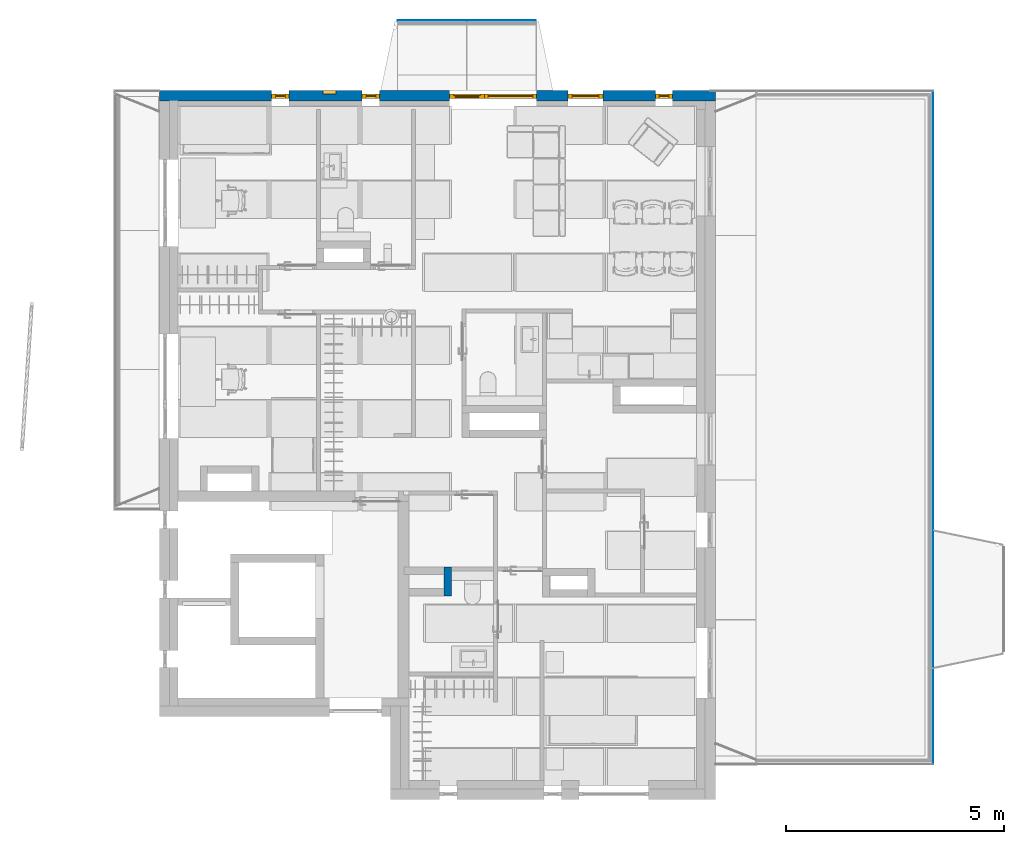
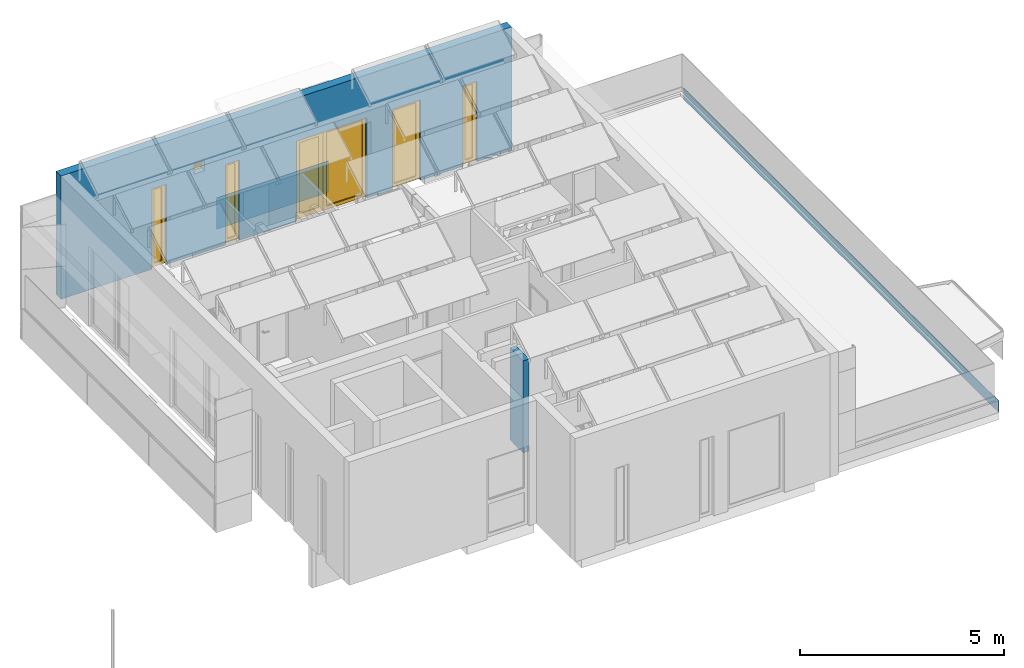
# One storey, part 6 of 57: 7 windows, 4 walls, 7 openings.
"""IFC2X3 building model written with IfcOpenShell, lengths in millimetres."""

from ifc_helpers import new_model, entity, si_unit, converted_unit, direction, frame, frame_2d, origin, place, context, subcontext, project, spatial, polyline, rectangle, outline, extrude, clip, bounded_halfspace, faceted_brep, source, transform, mapped, material, material_list, layer, layer_set, layer_usage, type_object, type_shapes, element, fill, save


model = new_model("IFC2X3")

# Units and contexts
model_context = context("Model", 3, precision=0.01, world=origin(), true_north=direction((6.123233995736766e-17, 1.0)))
plan_context = context("Plan", 3, precision=0.01, world=origin(), true_north=direction((6.123233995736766e-17, 1.0)))
body_context = subcontext(model_context, "Body", "Model", "MODEL_VIEW")
ifc_project = project(units=[si_unit("LENGTHUNIT", "METRE", prefix="MILLI"), converted_unit("PLANEANGLEUNIT", "DEGREE", entity("IfcPlaneAngleMeasure", 0.017453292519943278), si_unit("PLANEANGLEUNIT", "RADIAN"), dimensions=[0, 0, 0, 0, 0, 0, 0]), si_unit("AREAUNIT", "SQUARE_METRE")], contexts=[model_context, plan_context])

# Site, building, storey
site_placement = place(None, origin())
site = spatial("IfcSite", under=ifc_project, at=site_placement, Name="Default", CompositionType="ELEMENT")
building_placement = place(site_placement, origin())
building = spatial("IfcBuilding", under=site, at=building_placement, CompositionType="ELEMENT")
storey_placement = place(building_placement, frame((0.0, 0.0, 12811.000000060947)))
storey = spatial("IfcBuildingStorey", under=building, at=storey_placement, Name="5K", CompositionType="ELEMENT", Elevation=12811.000000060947)

# Wall, openings, windows
ifc_material_1 = material(Name="_K. Väisviimistlus. Krohv. Valge")
ifc_layer_1 = layer(ifc_material_1, 10.0)
ifc_material_2 = material(Name="_K. Soojustus. EPS Silver")
ifc_layer_2 = layer(ifc_material_2, 230.0)
ifc_layer_set_1 = layer_set([ifc_layer_1, ifc_layer_2], Name="Basic Wall:VS-01")
ifc_layer_usage_1 = layer_usage(ifc_layer_set_1, "AXIS2", "NEGATIVE", 120.0)
wall_type_1 = type_object("IfcWallType", Name="Basic Wall:VS-01", PredefinedType="STANDARD", material=ifc_layer_set_1)
wall_1_placement = place(storey_placement, frame((-430.0, 15710.0, 0.0)))
wall_1 = element("IfcWallStandardCase", 1, at=wall_1_placement, inside=storey, type_object=wall_type_1, material=ifc_layer_usage_1, Name="Basic Wall:VS-01", ObjectType="Basic Wall:VS-01", context=body_context, shape_type="SweptSolid", body=[
    extrude(rectangle(XDim=12760.000000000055, YDim=240.00000000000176, at=frame_2d((6380.000000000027, -1.4921397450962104e-13), x_axis=(-1.0, 0.0))), origin(), (0.0, 0.0, 1.0), 3688.9999999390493),
])
opening_1_placement = place(wall_1_placement, frame((430.0, -15710.0, 0.0)))
opening_1 = element("IfcOpeningElement", 2, at=opening_1_placement, cuts=wall_1, Name="Basic Wall:VS-01", ObjectType="Opening", context=body_context, shape_type="Brep", body=[
    faceted_brep([(11350.0, 15850.0, 2400.0), (11350.0, 15156.0, 2400.0), (11350.0, 15156.0, 0.0), (11350.0, 15740.0, 0.0), (11350.0, 15750.0, 0.0), (11350.0, 15850.0, 0.0), (10950.0, 15850.0, 2400.0), (10950.0, 15156.0, 2400.0), (10950.0, 15850.0, 0.0), (10950.0, 15750.0, 0.0), (10950.0, 15740.0, 0.0), (10950.0, 15156.0, 0.0)], [[[0, 1, 2, 3, 4, 5]], [[6, 7, 1, 0]], [[8, 9, 10, 11, 7, 6]], [[5, 4, 3, 2, 11, 10, 9, 8]], [[6, 0, 5, 8]], [[7, 11, 2, 1]]]),
])
opening_2_placement = place(wall_1_placement, frame((430.0, -15710.0, 0.0)))
opening_2 = element("IfcOpeningElement", 3, at=opening_2_placement, cuts=wall_1, Name="Basic Wall:VS-01", ObjectType="Opening", context=body_context, shape_type="Brep", body=[
    faceted_brep([(9750.0, 15850.0, 2400.0), (9750.0, 15156.0, 2400.0), (9750.0, 15156.0, 0.0), (9750.0, 15740.0, 0.0), (9750.0, 15750.0, 0.0), (9750.0, 15850.0, 0.0), (8950.0, 15850.0, 2400.0), (8950.0, 15156.0, 2400.0), (8950.0, 15850.0, 0.0), (8950.0, 15750.0, 0.0), (8950.0, 15740.0, 0.0), (8950.0, 15156.0, 0.0)], [[[0, 1, 2, 3, 4, 5]], [[6, 7, 1, 0]], [[8, 9, 10, 11, 7, 6]], [[5, 4, 3, 2, 11, 10, 9, 8]], [[6, 0, 5, 8]], [[7, 11, 2, 1]]]),
])
opening_3_placement = place(wall_1_placement, frame((430.0, -15710.0, 0.0)))
opening_3 = element("IfcOpeningElement", 4, at=opening_3_placement, cuts=wall_1, Name="Basic Wall:VS-01", ObjectType="Opening", context=body_context, shape_type="Brep", body=[
    faceted_brep([(8230.0, 15850.0, 2400.0), (8230.0, 15156.0, 2400.0), (8230.0, 15156.0, 0.0), (8230.0, 15740.0, 0.0), (8230.0, 15750.0, 0.0), (8230.0, 15850.0, 0.0), (7030.0, 15850.0, 2400.0), (7030.0, 15156.0, 2400.0), (7030.0, 15850.0, 0.0), (7030.0, 15750.0, 0.0), (7030.0, 15740.0, 0.0), (7030.0, 15156.0, 0.0)], [[[0, 1, 2, 3, 4, 5]], [[6, 7, 1, 0]], [[8, 9, 10, 11, 7, 6]], [[5, 4, 3, 2, 11, 10, 9, 8]], [[6, 0, 5, 8]], [[7, 11, 2, 1]]]),
])
opening_4_placement = place(wall_1_placement, frame((430.0, -15710.0, 0.0)))
opening_4 = element("IfcOpeningElement", 5, at=opening_4_placement, cuts=wall_1, Name="Basic Wall:VS-01", ObjectType="Opening", context=body_context, shape_type="Brep", body=[
    faceted_brep([(4625.0, 15850.0, 2400.0), (4625.0, 15156.0, 2400.0), (4625.0, 15156.0, 0.0), (4625.0, 15740.0, 0.0), (4625.0, 15750.0, 0.0), (4625.0, 15850.0, 0.0), (4225.0, 15850.0, 2400.0), (4225.0, 15156.0, 2400.0), (4225.0, 15850.0, 0.0), (4225.0, 15750.0, 0.0), (4225.0, 15740.0, 0.0), (4225.0, 15156.0, 0.0)], [[[0, 1, 2, 3, 4, 5]], [[6, 7, 1, 0]], [[8, 9, 10, 11, 7, 6]], [[5, 4, 3, 2, 11, 10, 9, 8]], [[6, 0, 5, 8]], [[7, 11, 2, 1]]]),
])
opening_5_placement = place(wall_1_placement, frame((430.0, -15710.0, 0.0)))
opening_5 = element("IfcOpeningElement", 6, at=opening_5_placement, cuts=wall_1, Name="Basic Wall:VS-01", ObjectType="Opening", context=body_context, shape_type="Brep", body=[
    faceted_brep([(2550.0, 15850.0, 2400.0), (2550.0, 15156.0, 2400.0), (2550.0, 15156.0, 0.0), (2550.0, 15740.0, 0.0), (2550.0, 15750.0, 0.0), (2550.0, 15850.0, 0.0), (2150.0, 15850.0, 2400.0), (2150.0, 15156.0, 2400.0), (2150.0, 15850.0, 0.0), (2150.0, 15750.0, 0.0), (2150.0, 15740.0, 0.0), (2150.0, 15156.0, 0.0)], [[[0, 1, 2, 3, 4, 5]], [[6, 7, 1, 0]], [[8, 9, 10, 11, 7, 6]], [[5, 4, 3, 2, 11, 10, 9, 8]], [[6, 0, 5, 8]], [[7, 11, 2, 1]]]),
])
opening_6_placement = place(wall_1_placement, frame((430.0, -15710.0, 0.0)))
opening_6 = element("IfcOpeningElement", 7, at=opening_6_placement, cuts=wall_1, Name="Basic Wall:VS-01", ObjectType="Opening", context=body_context, shape_type="Brep", body=[
    faceted_brep([(7030.0, 15850.0, 2400.0), (7030.0, 15156.0, 2400.0), (7030.0, 15156.0, 0.0), (7030.0, 15740.0, 0.0), (7030.0, 15750.0, 0.0), (7030.0, 15850.0, 0.0), (6230.0, 15850.0, 2400.0), (6230.0, 15156.0, 2400.0), (6230.0, 15850.0, 0.0), (6230.0, 15750.0, 0.0), (6230.0, 15740.0, 0.0), (6230.0, 15156.0, 0.0)], [[[0, 1, 2, 3, 4, 5]], [[6, 7, 1, 0]], [[8, 9, 10, 11, 7, 6]], [[5, 4, 3, 2, 11, 10, 9, 8]], [[6, 0, 5, 8]], [[7, 11, 2, 1]]]),
])
opening_7_placement = place(wall_1_placement, frame((3760.0, -120.0, 2424.9999999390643)))
opening_7 = element("IfcOpeningElement", 8, at=opening_7_placement, cuts=wall_1, Name="HR_Louver_Rectangle_v1:300x300:1", ObjectType="Opening", context=body_context, shape_type="SweptSolid", body=[
    extrude(rectangle(XDim=300.0, YDim=299.99999999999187, at=frame_2d((149.99999999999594, 150.0), x_axis=(0.0, 1.0))), frame((0.0, 0.0, 0.0), z_axis=(0.0, 1.0, 0.0), x_axis=(0.0, 0.0, 1.0)), (0.0, 0.0, 1.0), 240.0),
])
ifc_material_3 = material(Name="_K. Avatäited. Raam. PVC. Valge")
ifc_material_4 = material(Name="_K. Klaas. Pakett")
ifc_material_5 = material(Name="_K. Avatäited. Raam. PVC. RAL9005")
ifc_material_list_1 = material_list([ifc_material_3, ifc_material_4, ifc_material_5])
window_style_1 = type_object("IfcWindowStyle", Name="HR_Window_Generic_Rectangle_1x1:A-01.400x2400.ma", ConstructionType="NOTDEFINED", OperationType="NOTDEFINED", ParameterTakesPrecedence=False, Sizeable=False, material=ifc_material_list_1)
shared_shape_1 = source(origin(), body_context, "Body", "Brep", [
    faceted_brep([(88.0, -194.0, 2312.0), (312.0, -194.0, 2312.0), (312.0, -194.0, 108.0), (88.0, -194.0, 108.0), (342.0, -194.0, 2342.0), (58.0, -194.0, 2342.0), (58.0, -194.0, 78.0), (342.0, -194.0, 78.0), (88.0, -159.0, 2312.0), (88.0, -159.0, 108.0), (312.0, -159.0, 108.0), (342.0, -159.0, 2342.0), (342.0, -159.0, 78.0), (58.0, -159.0, 78.0), (58.0, -159.0, 2342.0), (312.0, -159.0, 2312.0)], [[[0, 1, 2, 3], [4, 5, 6, 7]], [[8, 0, 3, 9]], [[9, 3, 2, 10]], [[11, 12, 13, 14], [15, 8, 9, 10]], [[1, 15, 10, 2]], [[6, 5, 14, 13]], [[7, 6, 13, 12]], [[4, 7, 12, 11]], [[15, 1, 0, 8]], [[5, 4, 11, 14]]], outer=[[False, True], [True], [True], [True, False], [True], [True], [True], [True], [True], [True]]),
    faceted_brep([(342.0, -159.0, 2342.0), (58.0, -159.0, 2342.0), (58.0, -159.0, 78.0), (342.0, -159.0, 78.0), (58.0, -134.0, 2342.0), (58.0, -134.0, 78.0), (342.0, -134.0, 78.0), (342.0, -134.0, 2342.0)], [[[0, 1, 2, 3]], [[2, 1, 4, 5]], [[3, 2, 5, 6]], [[0, 3, 6, 7]], [[7, 6, 5, 4]], [[1, 0, 7, 4]]]),
    faceted_brep([(342.0, -134.0, 78.0), (58.0, -134.0, 78.0), (58.0, -194.0, 78.0), (342.0, -194.0, 78.0), (58.0, -134.0, 2342.0), (58.0, -194.0, 2342.0), (342.0, -134.0, 2342.0), (342.0, -194.0, 2342.0), (88.0, -100.0, 108.0), (88.0, -100.0, 2312.0), (88.0, -134.0, 2312.0), (88.0, -134.0, 108.0), (312.0, -100.0, 108.0), (312.0, -134.0, 108.0), (312.0, -100.0, 2312.0), (312.0, -134.0, 2312.0), (0.0, -100.0, 2400.0), (400.0, -100.0, 2400.0), (400.0, -100.0, 30.0), (0.0, -100.0, 30.0), (400.0, -194.0, 2400.0), (0.0, -194.0, 2400.0), (0.0, -194.0, 30.0), (400.0, -194.0, 30.0), (0.0, -110.0, 30.0), (0.0, -110.0, 0.0), (0.0, -184.0, 0.0), (0.0, -184.0, 30.0), (400.0, -184.0, 30.0), (400.0, -184.0, 0.0), (400.0, -110.0, 0.0), (400.0, -110.0, 30.0)], [[[0, 1, 2, 3]], [[1, 4, 5, 2]], [[6, 0, 3, 7]], [[8, 9, 10, 11]], [[12, 8, 11, 13]], [[14, 12, 13, 15]], [[16, 17, 18, 19], [9, 8, 12, 14]], [[20, 21, 22, 23], [7, 3, 2, 5]], [[21, 16, 19, 24, 25, 26, 27, 22]], [[27, 28, 23, 22]], [[17, 20, 23, 28, 29, 30, 31, 18]], [[31, 24, 19, 18]], [[24, 31, 30, 25]], [[25, 30, 29, 26]], [[28, 27, 26, 29]], [[4, 6, 7, 5]], [[9, 14, 15, 10]], [[21, 20, 17, 16]], [[10, 15, 13, 11], [0, 6, 4, 1]]], outer=[[True], [True], [True], [True], [True], [True], [True, False], [True, False], [True], [True], [True], [True], [True], [True], [True], [True], [True], [True], [False, True]]),
])
type_shapes(window_style_1, [shared_shape_1])
window_1_placement = place(opening_1_placement, frame((10950.0, 15850.0, 0.0)))
window_1 = element("IfcWindow", 9, at=window_1_placement, inside=storey, type_object=window_style_1, material=ifc_material_list_1, Name="HR_Window_Generic_Rectangle_1x1:A-01.400x2400.ma", ObjectType="HR_Window_Generic_Rectangle_1x1:A-01.400x2400.ma", OverallHeight=2465.0000000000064, OverallWidth=400.0000000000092, context=body_context, shape_type="MappedRepresentation", body=[
    mapped(shared_shape_1, transform((0.0, 0.0, 0.0), scale=1.0)),
])
fill(opening_1, window_1)
window_2_placement = place(opening_4_placement, frame((4225.0, 15850.0, 0.0)))
window_2 = element("IfcWindow", 10, at=window_2_placement, inside=storey, type_object=window_style_1, material=ifc_material_list_1, Name="HR_Window_Generic_Rectangle_1x1:A-01.400x2400.ma", ObjectType="HR_Window_Generic_Rectangle_1x1:A-01.400x2400.ma", OverallHeight=2465.0000000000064, OverallWidth=400.0000000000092, context=body_context, shape_type="MappedRepresentation", body=[
    mapped(shared_shape_1, transform((0.0, 0.0, 0.0), scale=1.0)),
])
fill(opening_4, window_2)
window_3_placement = place(opening_5_placement, frame((2150.0, 15850.0, 0.0)))
window_3 = element("IfcWindow", 11, at=window_3_placement, inside=storey, type_object=window_style_1, material=ifc_material_list_1, Name="HR_Window_Generic_Rectangle_1x1:A-01.400x2400.ma", ObjectType="HR_Window_Generic_Rectangle_1x1:A-01.400x2400.ma", OverallHeight=2465.0000000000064, OverallWidth=400.0000000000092, context=body_context, shape_type="MappedRepresentation", body=[
    mapped(shared_shape_1, transform((0.0, 0.0, 0.0), scale=1.0)),
])
fill(opening_5, window_3)
window_style_2 = type_object("IfcWindowStyle", Name="HR_Window_Generic_Rectangle_1x1:A-02. 800x2400. ma", ConstructionType="NOTDEFINED", OperationType="NOTDEFINED", ParameterTakesPrecedence=False, Sizeable=False, material=ifc_material_list_1)
shared_shape_2 = source(origin(), body_context, "Body", "Brep", [
    faceted_brep([(88.0, -194.0, 2312.0), (712.0, -194.0, 2312.0), (712.0, -194.0, 108.0), (88.0, -194.0, 108.0), (742.0, -194.0, 2342.0), (58.0, -194.0, 2342.0), (58.0, -194.0, 78.0), (742.0, -194.0, 78.0), (88.0, -159.0, 2312.0), (88.0, -159.0, 108.0), (712.0, -159.0, 108.0), (742.0, -159.0, 2342.0), (742.0, -159.0, 78.0), (58.0, -159.0, 78.0), (58.0, -159.0, 2342.0), (712.0, -159.0, 2312.0)], [[[0, 1, 2, 3], [4, 5, 6, 7]], [[8, 0, 3, 9]], [[9, 3, 2, 10]], [[11, 12, 13, 14], [15, 8, 9, 10]], [[1, 15, 10, 2]], [[6, 5, 14, 13]], [[7, 6, 13, 12]], [[4, 7, 12, 11]], [[15, 1, 0, 8]], [[5, 4, 11, 14]]], outer=[[False, True], [True], [True], [True, False], [True], [True], [True], [True], [True], [True]]),
    faceted_brep([(742.0, -159.0, 2342.0), (58.0, -159.0, 2342.0), (58.0, -159.0, 78.0), (742.0, -159.0, 78.0), (58.0, -134.0, 2342.0), (58.0, -134.0, 78.0), (742.0, -134.0, 78.0), (742.0, -134.0, 2342.0)], [[[0, 1, 2, 3]], [[2, 1, 4, 5]], [[3, 2, 5, 6]], [[0, 3, 6, 7]], [[7, 6, 5, 4]], [[1, 0, 7, 4]]]),
    faceted_brep([(742.0, -134.0, 78.0), (58.0, -134.0, 78.0), (58.0, -194.0, 78.0), (742.0, -194.0, 78.0), (58.0, -134.0, 2342.0), (58.0, -194.0, 2342.0), (742.0, -134.0, 2342.0), (742.0, -194.0, 2342.0), (88.0, -100.0, 108.0), (88.0, -100.0, 2312.0), (88.0, -134.0, 2312.0), (88.0, -134.0, 108.0), (712.0, -100.0, 108.0), (712.0, -134.0, 108.0), (712.0, -100.0, 2312.0), (712.0, -134.0, 2312.0), (0.0, -100.0, 2400.0), (800.0, -100.0, 2400.0), (800.0, -100.0, 30.0), (0.0, -100.0, 30.0), (800.0, -194.0, 2400.0), (0.0, -194.0, 2400.0), (0.0, -194.0, 30.0), (800.0, -194.0, 30.0), (0.0, -110.0, 30.0), (0.0, -110.0, 0.0), (0.0, -184.0, 0.0), (0.0, -184.0, 30.0), (800.0, -184.0, 30.0), (800.0, -184.0, 0.0), (800.0, -110.0, 0.0), (800.0, -110.0, 30.0)], [[[0, 1, 2, 3]], [[1, 4, 5, 2]], [[6, 0, 3, 7]], [[8, 9, 10, 11]], [[12, 8, 11, 13]], [[14, 12, 13, 15]], [[16, 17, 18, 19], [9, 8, 12, 14]], [[20, 21, 22, 23], [7, 3, 2, 5]], [[21, 16, 19, 24, 25, 26, 27, 22]], [[27, 28, 23, 22]], [[17, 20, 23, 28, 29, 30, 31, 18]], [[31, 24, 19, 18]], [[24, 31, 30, 25]], [[25, 30, 29, 26]], [[28, 27, 26, 29]], [[4, 6, 7, 5]], [[9, 14, 15, 10]], [[21, 20, 17, 16]], [[10, 15, 13, 11], [0, 6, 4, 1]]], outer=[[True], [True], [True], [True], [True], [True], [True, False], [True, False], [True], [True], [True], [True], [True], [True], [True], [True], [True], [True], [False, True]]),
])
type_shapes(window_style_2, [shared_shape_2])
window_4_placement = place(opening_2_placement, frame((8950.0, 15850.0, 0.0)))
window_4 = element("IfcWindow", 12, at=window_4_placement, inside=storey, type_object=window_style_2, material=ifc_material_list_1, Name="HR_Window_Generic_Rectangle_1x1:A-02. 800x2400. ma", ObjectType="HR_Window_Generic_Rectangle_1x1:A-02. 800x2400. ma", OverallHeight=2465.0000000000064, OverallWidth=800.000000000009, context=body_context, shape_type="MappedRepresentation", body=[
    mapped(shared_shape_2, transform((0.0, 0.0, 0.0), scale=1.0)),
])
fill(opening_2, window_4)
ifc_material_list_2 = material_list([ifc_material_4, ifc_material_5])
window_style_3 = type_object("IfcWindowStyle", Name="HR_Window_Generic_Rectangle_1x1:A-10.800x2400.P", ConstructionType="NOTDEFINED", OperationType="NOTDEFINED", ParameterTakesPrecedence=False, Sizeable=False, material=ifc_material_list_2)
shared_shape_3 = source(origin(), body_context, "Body", "Brep", [
    faceted_brep([(108.0, -154.0, 2292.0), (692.0, -154.0, 2292.0), (692.0, -154.0, 128.0), (108.0, -154.0, 128.0), (692.0, -179.0, 2292.0), (692.0, -179.0, 128.0), (108.0, -179.0, 128.0), (108.0, -179.0, 2292.0)], [[[0, 1, 2, 3]], [[2, 1, 4, 5]], [[3, 2, 5, 6]], [[0, 3, 6, 7]], [[7, 6, 5, 4]], [[1, 0, 7, 4]]]),
    faceted_brep([(692.0, -154.0, 2292.0), (692.0, -154.0, 128.0), (692.0, -179.0, 128.0), (692.0, -179.0, 2292.0), (742.0, -134.0, 2342.0), (58.0, -134.0, 2342.0), (58.0, -194.0, 2342.0), (742.0, -194.0, 2342.0), (128.0, -154.0, 2272.0), (128.0, -134.0, 2272.0), (672.0, -134.0, 2272.0), (672.0, -154.0, 2272.0), (128.0, -179.0, 2272.0), (128.0, -194.0, 2272.0), (128.0, -194.0, 148.0), (128.0, -179.0, 148.0), (742.0, -134.0, 78.0), (742.0, -194.0, 78.0), (58.0, -194.0, 78.0), (58.0, -134.0, 78.0), (672.0, -194.0, 2272.0), (672.0, -194.0, 148.0), (128.0, -134.0, 148.0), (672.0, -134.0, 148.0), (128.0, -154.0, 148.0), (672.0, -154.0, 148.0), (108.0, -154.0, 128.0), (108.0, -179.0, 128.0), (108.0, -154.0, 2292.0), (108.0, -179.0, 2292.0), (672.0, -179.0, 2272.0), (672.0, -179.0, 148.0)], [[[0, 1, 2, 3]], [[4, 5, 6, 7]], [[8, 9, 10, 11]], [[12, 13, 14, 15]], [[16, 17, 18, 19]], [[4, 7, 17, 16]], [[13, 20, 21, 14], [7, 6, 18, 17]], [[6, 5, 19, 18]], [[5, 4, 16, 19], [10, 9, 22, 23]], [[9, 8, 24, 22]], [[25, 23, 22, 24]], [[11, 10, 23, 25]], [[1, 26, 27, 2]], [[26, 28, 29, 27]], [[28, 26, 1, 0], [8, 11, 25, 24]], [[28, 0, 3, 29]], [[20, 30, 31, 21]], [[21, 31, 15, 14]], [[29, 3, 2, 27], [30, 12, 15, 31]], [[13, 12, 30, 20]]], outer=[[True], [True], [True], [True], [True], [True], [False, True], [True], [True, False], [True], [True], [True], [True], [True], [True, False], [True], [True], [True], [True, False], [True]]),
    faceted_brep([(742.0, -134.0, 78.0), (58.0, -134.0, 78.0), (58.0, -194.0, 78.0), (742.0, -194.0, 78.0), (58.0, -134.0, 2342.0), (58.0, -194.0, 2342.0), (742.0, -134.0, 2342.0), (742.0, -194.0, 2342.0), (88.0, -100.0, 108.0), (88.0, -100.0, 2312.0), (88.0, -134.0, 2312.0), (88.0, -134.0, 108.0), (712.0, -100.0, 108.0), (712.0, -134.0, 108.0), (712.0, -100.0, 2312.0), (712.0, -134.0, 2312.0), (0.0, -100.0, 2400.0), (800.0, -100.0, 2400.0), (800.0, -100.0, 30.0), (0.0, -100.0, 30.0), (800.0, -194.0, 2400.0), (0.0, -194.0, 2400.0), (0.0, -194.0, 30.0), (800.0, -194.0, 30.0), (0.0, -110.0, 30.0), (0.0, -110.0, 0.0), (0.0, -184.0, 0.0), (0.0, -184.0, 30.0), (800.0, -184.0, 30.0), (800.0, -184.0, 0.0), (800.0, -110.0, 0.0), (800.0, -110.0, 30.0)], [[[0, 1, 2, 3]], [[1, 4, 5, 2]], [[6, 0, 3, 7]], [[8, 9, 10, 11]], [[12, 8, 11, 13]], [[14, 12, 13, 15]], [[16, 17, 18, 19], [9, 8, 12, 14]], [[20, 21, 22, 23], [7, 3, 2, 5]], [[21, 16, 19, 24, 25, 26, 27, 22]], [[27, 28, 23, 22]], [[17, 20, 23, 28, 29, 30, 31, 18]], [[31, 24, 19, 18]], [[24, 31, 30, 25]], [[25, 30, 29, 26]], [[28, 27, 26, 29]], [[4, 6, 7, 5]], [[9, 14, 15, 10]], [[21, 20, 17, 16]], [[10, 15, 13, 11], [0, 6, 4, 1]]], outer=[[True], [True], [True], [True], [True], [True], [True, False], [True, False], [True], [True], [True], [True], [True], [True], [True], [True], [True], [True], [False, True]]),
])
type_shapes(window_style_3, [shared_shape_3])
window_5_placement = place(opening_6_placement, frame((6230.0, 15850.0, 0.0)))
window_5 = element("IfcWindow", 13, at=window_5_placement, inside=storey, type_object=window_style_3, material=ifc_material_list_2, Name="HR_Window_Generic_Rectangle_1x1:A-10.800x2400.P", ObjectType="HR_Window_Generic_Rectangle_1x1:A-10.800x2400.P", OverallHeight=2465.0000000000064, OverallWidth=800.000000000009, context=body_context, shape_type="MappedRepresentation", body=[
    mapped(shared_shape_3, transform((0.0, 0.0, 0.0), scale=1.0)),
])
fill(opening_6, window_5)
window_style_4 = type_object("IfcWindowStyle", Name="HR_Window_Generic_Rectangle_1x1:A-03.1200x2400.ma", ConstructionType="NOTDEFINED", OperationType="NOTDEFINED", ParameterTakesPrecedence=False, Sizeable=False, material=ifc_material_list_1)
shared_shape_4 = source(origin(), body_context, "Body", "Brep", [
    faceted_brep([(88.0, -194.0, 2312.0), (1112.0, -194.0, 2312.0), (1112.0, -194.0, 108.0), (88.0, -194.0, 108.0), (1142.0, -194.0, 2342.0), (58.0, -194.0, 2342.0), (58.0, -194.0, 78.0), (1142.0, -194.0, 78.0), (88.0, -159.0, 2312.0), (88.0, -159.0, 108.0), (1112.0, -159.0, 108.0), (1142.0, -159.0, 2342.0), (1142.0, -159.0, 78.0), (58.0, -159.0, 78.0), (58.0, -159.0, 2342.0), (1112.0, -159.0, 2312.0)], [[[0, 1, 2, 3], [4, 5, 6, 7]], [[8, 0, 3, 9]], [[9, 3, 2, 10]], [[11, 12, 13, 14], [15, 8, 9, 10]], [[1, 15, 10, 2]], [[6, 5, 14, 13]], [[7, 6, 13, 12]], [[4, 7, 12, 11]], [[15, 1, 0, 8]], [[5, 4, 11, 14]]], outer=[[False, True], [True], [True], [True, False], [True], [True], [True], [True], [True], [True]]),
    faceted_brep([(1142.0, -159.0, 2342.0), (58.0, -159.0, 2342.0), (58.0, -159.0, 78.0), (1142.0, -159.0, 78.0), (58.0, -134.0, 2342.0), (58.0, -134.0, 78.0), (1142.0, -134.0, 78.0), (1142.0, -134.0, 2342.0)], [[[0, 1, 2, 3]], [[2, 1, 4, 5]], [[3, 2, 5, 6]], [[0, 3, 6, 7]], [[7, 6, 5, 4]], [[1, 0, 7, 4]]]),
    faceted_brep([(1142.0, -134.0, 78.0), (58.0, -134.0, 78.0), (58.0, -194.0, 78.0), (1142.0, -194.0, 78.0), (58.0, -134.0, 2342.0), (58.0, -194.0, 2342.0), (1142.0, -134.0, 2342.0), (1142.0, -194.0, 2342.0), (88.0, -100.0, 108.0), (88.0, -100.0, 2312.0), (88.0, -134.0, 2312.0), (88.0, -134.0, 108.0), (1112.0, -100.0, 108.0), (1112.0, -134.0, 108.0), (1112.0, -100.0, 2312.0), (1112.0, -134.0, 2312.0), (0.0, -100.0, 2400.0), (1200.0, -100.0, 2400.0), (1200.0, -100.0, 30.0), (0.0, -100.0, 30.0), (1200.0, -194.0, 2400.0), (0.0, -194.0, 2400.0), (0.0, -194.0, 30.0), (1200.0, -194.0, 30.0), (0.0, -110.0, 30.0), (0.0, -110.0, 0.0), (0.0, -184.0, 0.0), (0.0, -184.0, 30.0), (1200.0, -184.0, 30.0), (1200.0, -184.0, 0.0), (1200.0, -110.0, 0.0), (1200.0, -110.0, 30.0)], [[[0, 1, 2, 3]], [[1, 4, 5, 2]], [[6, 0, 3, 7]], [[8, 9, 10, 11]], [[12, 8, 11, 13]], [[14, 12, 13, 15]], [[16, 17, 18, 19], [9, 8, 12, 14]], [[20, 21, 22, 23], [7, 3, 2, 5]], [[21, 16, 19, 24, 25, 26, 27, 22]], [[27, 28, 23, 22]], [[17, 20, 23, 28, 29, 30, 31, 18]], [[31, 24, 19, 18]], [[24, 31, 30, 25]], [[25, 30, 29, 26]], [[28, 27, 26, 29]], [[4, 6, 7, 5]], [[9, 14, 15, 10]], [[21, 20, 17, 16]], [[10, 15, 13, 11], [0, 6, 4, 1]]], outer=[[True], [True], [True], [True], [True], [True], [True, False], [True, False], [True], [True], [True], [True], [True], [True], [True], [True], [True], [True], [False, True]]),
])
type_shapes(window_style_4, [shared_shape_4])
window_6_placement = place(opening_3_placement, frame((7030.0, 15850.0, 0.0)))
window_6 = element("IfcWindow", 14, at=window_6_placement, inside=storey, type_object=window_style_4, material=ifc_material_list_1, Name="HR_Window_Generic_Rectangle_1x1:A-03.1200x2400.ma", ObjectType="HR_Window_Generic_Rectangle_1x1:A-03.1200x2400.ma", OverallHeight=2465.0000000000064, OverallWidth=1200.000000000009, context=body_context, shape_type="MappedRepresentation", body=[
    mapped(shared_shape_4, transform((0.0, 0.0, 0.0), scale=1.0)),
])
fill(opening_3, window_6)
ifc_material_6 = material(Name="_K. Metall. Plekk. Värvitud. Valge")
window_style_5 = type_object("IfcWindowStyle", Name="HR_Louver_Rectangle_v1:300x300", ConstructionType="NOTDEFINED", OperationType="NOTDEFINED", ParameterTakesPrecedence=False, Sizeable=False, material=ifc_material_6)
shared_shape_5 = source(origin(), body_context, "Body", "SweptSolid", [
    extrude(outline(polyline([(-35.34119409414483, 1.0), (-57.145910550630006, -19.60471645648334), (-55.77226278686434, -21.058364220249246), (-34.54571762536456, -1.0), (35.3411940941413, -1.0), (57.14591055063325, 19.604716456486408), (55.772262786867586, 21.058364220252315), (34.54571762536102, 1.0), (-35.34119409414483, 1.0)])), frame((2.0, 215.0, 119.0), z_axis=(-1.0, 0.0, 0.0), x_axis=(0.0, 0.6868238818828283, -0.7268238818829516)), (0.0, 0.0, -1.0), 296.0),
    extrude(outline(polyline([(-35.34119409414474, 1.0), (-57.1459105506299, -19.60471645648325), (-55.77226278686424, -21.058364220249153), (-34.54571762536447, -1.0), (35.34119409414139, -1.0), (57.145910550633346, 19.604716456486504), (55.772262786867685, 21.058364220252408), (34.54571762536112, 1.0), (-35.34119409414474, 1.0)])), frame((2.0, 215.0, 181.0), z_axis=(-1.0, 0.0, 0.0), x_axis=(0.0, 0.6868238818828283, -0.7268238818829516)), (0.0, 0.0, -1.0), 296.0),
    extrude(outline(polyline([(-35.34119409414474, 1.0), (-57.1459105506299, -19.60471645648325), (-55.77226278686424, -21.058364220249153), (-34.54571762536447, -1.0), (35.34119409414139, -1.0), (57.145910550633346, 19.604716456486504), (55.772262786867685, 21.058364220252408), (34.54571762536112, 1.0), (-35.34119409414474, 1.0)])), frame((2.0, 215.0, 57.0), z_axis=(-1.0, 0.0, 0.0), x_axis=(0.0, 0.6868238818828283, -0.7268238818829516)), (0.0, 0.0, -1.0), 296.0),
    extrude(outline(polyline([(-35.34119409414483, 1.0), (-57.145910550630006, -19.60471645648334), (-55.77226278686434, -21.058364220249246), (-34.54571762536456, -1.0), (35.3411940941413, -1.0), (57.14591055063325, 19.604716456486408), (55.772262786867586, 21.058364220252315), (34.54571762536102, 1.0), (-35.34119409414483, 1.0)])), frame((2.0, 215.0, 243.0), z_axis=(-1.0, 0.0, 0.0), x_axis=(0.0, 0.6868238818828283, -0.7268238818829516)), (0.0, 0.0, -1.0), 295.99999999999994),
    extrude(outline(polyline([(-200.0, -200.0), (200.0, -200.0), (200.0, 200.0), (-200.0, 200.0), (-200.0, -200.0)]), holes=[polyline([(-148.0, -148.0), (-148.0, 148.0), (148.0, 148.0), (148.0, -148.0), (-148.0, -148.0)])]), frame((150.0, 240.0, 150.0), z_axis=(0.0, 1.0, 0.0), x_axis=(1.0, 0.0, 0.0)), (0.0, 0.0, 1.0), 1.9999999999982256),
    extrude(outline(polyline([(-150.0, -150.0), (150.0, -150.0), (150.0, 150.0), (-150.0, 150.0), (-150.0, -150.0)]), holes=[polyline([(148.0, -148.0), (-148.0, -148.0), (-148.0, 148.0), (148.0, 148.0), (148.0, -148.0)])]), frame((150.0, 160.0, 150.0), z_axis=(0.0, 1.0, 0.0), x_axis=(0.0, 0.0, -1.0)), (0.0, 0.0, 1.0), 79.99999999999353),
])
type_shapes(window_style_5, [shared_shape_5])
window_7_placement = place(opening_7_placement, origin())
window_7 = element("IfcWindow", 15, at=window_7_placement, inside=storey, type_object=window_style_5, material=ifc_material_6, Name="HR_Louver_Rectangle_v1:300x300", ObjectType="HR_Louver_Rectangle_v1:300x300", OverallHeight=299.99999999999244, OverallWidth=300.0, context=body_context, shape_type="MappedRepresentation", body=[
    mapped(shared_shape_5, transform((0.0, 0.0, 0.0), scale=1.0)),
])
fill(opening_7, window_7)

# Walls
ifc_layer_3 = layer(ifc_material_1, 10.0)
ifc_material_7 = material(Name="_K. Müüritis. Väikeplokk. Kergkruusplokk")
ifc_layer_4 = layer(ifc_material_7, 150.0)
ifc_layer_5 = layer(ifc_material_1, 10.0)
ifc_layer_set_2 = layer_set([ifc_layer_3, ifc_layer_4, ifc_layer_5], Name="Basic Wall:SS-03. Šahti sein")
wall_type_2 = type_object("IfcWallType", Name="Basic Wall:SS-03. Šahti sein", PredefinedType="STANDARD", material=ifc_layer_set_2)
wall_2_placement = place(storey_placement, frame((6184.997197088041, 4900.0, -20.0), z_axis=(0.0, 0.0, 1.0), x_axis=(0.0, -1.0, 0.0)))
element("IfcWall", 16, at=wall_2_placement, inside=storey, type_object=wall_type_2, Name="Basic Wall:SS-03. Šahti sein", ObjectType="Basic Wall:SS-03. Šahti sein", context=body_context, shape_type="Brep", body=[
    faceted_brep([(660.0, -85.0, 2769.998712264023), (0.0, -85.0, 2769.998712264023), (0.0, -85.0, 20.000076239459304), (170.0, -85.0, 20.000076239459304), (170.0, -85.0, 0.0), (490.0, -85.0, 0.0), (490.0, -85.0, 20.000076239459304), (660.0, -85.0, 20.000076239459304), (0.0, 85.0, 2769.998712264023), (92.0, 85.0, 2769.998712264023), (660.0, 85.0, 2769.998712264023), (660.0, 85.0, 20.000076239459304), (490.0, 85.0, 20.000076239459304), (490.0, 85.0, 0.0), (170.0, 85.0, 0.0), (170.0, 85.0, 20.000076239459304), (0.0, 85.0, 20.000076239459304)], [[[0, 1, 2, 3, 4, 5, 6, 7]], [[8, 9, 10, 11, 12, 13, 14, 15, 16]], [[1, 0, 10, 9, 8]], [[5, 4, 14, 13]], [[16, 15, 3, 2]], [[3, 15, 14, 4]], [[2, 1, 8, 16]], [[7, 6, 12, 11]], [[12, 6, 5, 13]], [[0, 7, 11, 10]]]),
])
ifc_layer_6 = layer(ifc_material_1, 10.0)
ifc_layer_set_3 = layer_set([ifc_layer_6], Name="Basic Wall:VS-01 krohv")
ifc_layer_usage_2 = layer_usage(ifc_layer_set_3, "AXIS2", "POSITIVE", -5.0)
wall_type_3 = type_object("IfcWallType", Name="Basic Wall:VS-01 krohv", PredefinedType="STANDARD", material=ifc_layer_set_3)
wall_3_placement = place(storey_placement, frame((17325.0, 370.0, -375.625832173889), z_axis=(0.0, 0.0, 1.0), x_axis=(0.0, 1.0, 0.0)))
element("IfcWallStandardCase", 17, at=wall_3_placement, inside=storey, type_object=wall_type_3, material=ifc_layer_usage_2, Name="Basic Wall:VS-01 krohv", ObjectType="Basic Wall:VS-01 krohv", context=body_context, shape_type="Clipping", body=[
    clip(clip(extrude(rectangle(XDim=15450.000000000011, YDim=10.000000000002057, at=frame_2d((7725.0000000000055, 8.881784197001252e-15), x_axis=(-1.0, 0.0))), origin(), (0.0, 0.0, 1.0), 350.62583217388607), bounded_halfspace(frame((15220.0, 5.0, 4.625977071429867), z_axis=(0.0, 0.0, 1.0), x_axis=(0.0, -1.0, 0.0)), True, frame((15220.0, 5.0, 4.625977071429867), z_axis=(0.0, 0.0, 1.0), x_axis=(0.0, -1.0, 0.0)), polyline([(0.0, 0.0), (0.0, -15210.0), (0.0, -15220.0), (10.0, -15220.0), (10.0, 0.0), (0.0, 0.0)]))), bounded_halfspace(frame((15220.0, -5.0, 4.625977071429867), z_axis=(-1.0, 0.0, 0.0), x_axis=(0.0, -1.0, 0.0)), False, frame((15220.0, -5.0, 4.625977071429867), z_axis=(-1.0, 0.0, 0.0), x_axis=(0.0, -1.0, 0.0)), polyline([(0.0, 0.0), (-10.0, 0.0), (-10.0, -4.625977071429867), (0.0, -4.625977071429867), (0.0, 0.0)]))),
])
ifc_material_8 = material(Name="_K. Välisviimistlus. Alumiinium-komposiitplaat")
ifc_layer_7 = layer(ifc_material_8, 4.0)
ifc_material_9 = material(Name="_K. Õhk. Roov. Fassaadikatte alusroov. Horisontaalne. 25 mm")
ifc_layer_8 = layer(ifc_material_9, 16.0)
ifc_layer_set_4 = layer_set([ifc_layer_7, ifc_layer_8], Name="Basic Wall:VS-komposiit")
ifc_layer_usage_3 = layer_usage(ifc_layer_set_4, "AXIS2", "NEGATIVE", 10.000000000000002)
wall_type_4 = type_object("IfcWallType", Name="Basic Wall:VS-komposiit", PredefinedType="STANDARD")
wall_4_placement = place(storey_placement, frame((5040.4165884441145, 17442.0, -938.500000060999)))
element("IfcWallStandardCase", 18, at=wall_4_placement, inside=storey, type_object=wall_type_4, material=ifc_layer_usage_3, Name="Basic Wall:VS-komposiit", ObjectType="Basic Wall:VS-komposiit", context=body_context, shape_type="SweptSolid", body=[
    extrude(rectangle(XDim=3169.583411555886, YDim=19.999999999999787, at=frame_2d((1584.791705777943, -1.234568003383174e-13), x_axis=(-1.0, 0.0))), origin(), (0.0, 0.0, 1.0), 938.500000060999),
])

save(model, "model.ifc")
